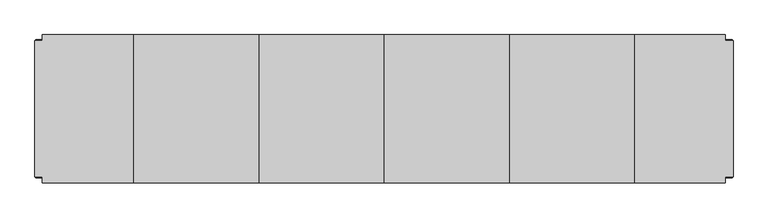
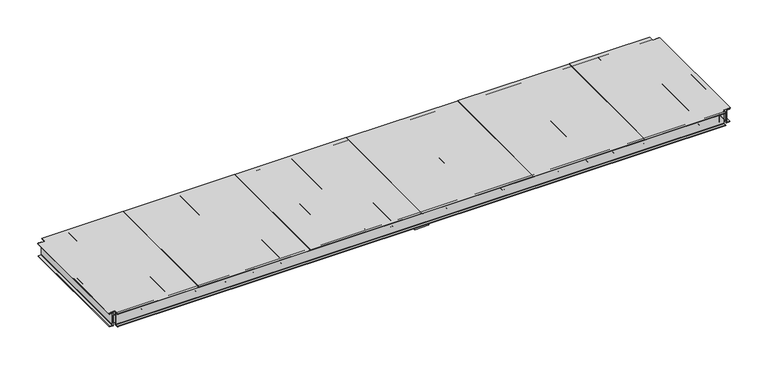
"""IFC4 building model written with IfcOpenShell, lengths in millimetres: beam geometry, Container_Frame1_Revised : Container_Frame1_Revised."""

from ifc_helpers import new_model, si_unit, point, frame, frame_2d, origin, place, context, project, spatial, polyline, circle_curve, trimmed, segment, composite_curve, outline, extrude, source, transform, mapped, element, save


def beam_5c8516a7(model_context):
    return source(origin(), model_context, "Body", "SweptSolid", [
        extrude(outline(composite_curve([segment(polyline([(330.1752743, 1804.4161686), (177.7752743, 1804.4161686), (177.7752743, 1853.1842409), (180.9948089, 1853.1842409)]), True, "CONTINUOUS"), segment(trimmed(circle_curve(frame_2d((180.9948089, 1850.1234802)), 3.0607607), [point((180.9948089, 1853.1842409))], [point((184.0555696, 1850.1234802))], False, "CARTESIAN"), True, "CONTINUOUS"), segment(polyline([(184.0555696, 1850.1234802), (186.983745, 1816.6542822)]), True, "CONTINUOUS"), segment(trimmed(circle_curve(frame_2d((194.4593586, 1816.6542822)), 7.4756136), [point((186.983745, 1816.6542822))], [point((194.4593586, 1809.1786686))], True, "CARTESIAN"), True, "CONTINUOUS"), segment(polyline([(194.4593586, 1809.1786686), (313.3303396, 1809.1786686)]), True, "CONTINUOUS"), segment(trimmed(circle_curve(frame_2d((313.3303396, 1816.7999286)), 7.62126), [point((313.3303396, 1809.1786686))], [point((320.9330346, 1816.2682964))], True, "CARTESIAN"), True, "CONTINUOUS"), segment(polyline([(320.9330346, 1816.2682964), (323.9201245, 1850.4108905)]), True, "CONTINUOUS"), segment(trimmed(circle_curve(frame_2d((326.9411605, 1850.1465841)), 3.0325758), [point((323.9201245, 1850.4108905))], [point((327.0998732, 1853.1750039))], False, "CARTESIAN"), True, "CONTINUOUS"), segment(polyline([(327.0998732, 1853.1750039), (330.1752743, 1853.1750039), (330.1752743, 1804.4161686)]), True, "CONTINUOUS")], self_intersect=False)), frame((0.0, -2776.4304972, 0.0), z_axis=(0.0, 1.0, 0.0), x_axis=(0.0, 0.0, 1.0)), (0.0, 0.0, 1.0), 2696.8000706),
        extrude(outline(composite_curve([segment(polyline([(330.1752743, 6071.6163139), (177.7752743, 6071.6163139), (177.7752743, 6120.3843862), (180.9948089, 6120.3843862)]), True, "CONTINUOUS"), segment(trimmed(circle_curve(frame_2d((180.9948089, 6117.3236256)), 3.0607607), [point((180.9948089, 6120.3843862))], [point((184.0555696, 6117.3236256))], False, "CARTESIAN"), True, "CONTINUOUS"), segment(polyline([(184.0555696, 6117.3236256), (186.983745, 6083.8544276)]), True, "CONTINUOUS"), segment(trimmed(circle_curve(frame_2d((194.4593586, 6083.8544276)), 7.4756136), [point((186.983745, 6083.8544276))], [point((194.4593586, 6076.3788139))], True, "CARTESIAN"), True, "CONTINUOUS"), segment(polyline([(194.4593586, 6076.3788139), (313.3303396, 6076.3788139)]), True, "CONTINUOUS"), segment(trimmed(circle_curve(frame_2d((313.3303396, 6084.000074)), 7.62126), [point((313.3303396, 6076.3788139))], [point((320.9330346, 6083.4684417))], True, "CARTESIAN"), True, "CONTINUOUS"), segment(polyline([(320.9330346, 6083.4684417), (323.9201245, 6117.6110358)]), True, "CONTINUOUS"), segment(trimmed(circle_curve(frame_2d((326.9411605, 6117.3467294)), 3.0325758), [point((323.9201245, 6117.6110358))], [point((327.0998732, 6120.3751492))], False, "CARTESIAN"), True, "CONTINUOUS"), segment(polyline([(327.0998732, 6120.3751492), (330.1752743, 6120.3751492), (330.1752743, 6071.6163139)]), True, "CONTINUOUS")], self_intersect=False)), frame((0.0, -2776.4304972, 0.0), z_axis=(0.0, 1.0, 0.0), x_axis=(0.0, 0.0, 1.0)), (0.0, 0.0, 1.0), 2696.8000706),
        extrude(outline(composite_curve([segment(polyline([(330.1752743, 5462.0163139), (177.7752743, 5462.0163139), (177.7752743, 5510.7843862), (180.9948089, 5510.7843862)]), True, "CONTINUOUS"), segment(trimmed(circle_curve(frame_2d((180.9948089, 5507.7236256)), 3.0607607), [point((180.9948089, 5510.7843862))], [point((184.0555696, 5507.7236256))], False, "CARTESIAN"), True, "CONTINUOUS"), segment(polyline([(184.0555696, 5507.7236256), (186.983745, 5474.2544276)]), True, "CONTINUOUS"), segment(trimmed(circle_curve(frame_2d((194.4593586, 5474.2544276)), 7.4756136), [point((186.983745, 5474.2544276))], [point((194.4593586, 5466.7788139))], True, "CARTESIAN"), True, "CONTINUOUS"), segment(polyline([(194.4593586, 5466.7788139), (313.3303396, 5466.7788139)]), True, "CONTINUOUS"), segment(trimmed(circle_curve(frame_2d((313.3303396, 5474.400074)), 7.62126), [point((313.3303396, 5466.7788139))], [point((320.9330346, 5473.8684417))], True, "CARTESIAN"), True, "CONTINUOUS"), segment(polyline([(320.9330346, 5473.8684417), (323.9201245, 5508.0110358)]), True, "CONTINUOUS"), segment(trimmed(circle_curve(frame_2d((326.9411605, 5507.7467294)), 3.0325758), [point((323.9201245, 5508.0110358))], [point((327.0998732, 5510.7751492))], False, "CARTESIAN"), True, "CONTINUOUS"), segment(polyline([(327.0998732, 5510.7751492), (330.1752743, 5510.7751492), (330.1752743, 5462.0163139)]), True, "CONTINUOUS")], self_intersect=False)), frame((0.0, -2776.4304972, 0.0), z_axis=(0.0, 1.0, 0.0), x_axis=(0.0, 0.0, 1.0)), (0.0, 0.0, 1.0), 2696.8000706),
        extrude(outline(composite_curve([segment(polyline([(330.1752743, 4852.4163139), (177.7752743, 4852.4163139), (177.7752743, 4901.1843862), (180.9948089, 4901.1843862)]), True, "CONTINUOUS"), segment(trimmed(circle_curve(frame_2d((180.9948089, 4898.1236256)), 3.0607607), [point((180.9948089, 4901.1843862))], [point((184.0555696, 4898.1236256))], False, "CARTESIAN"), True, "CONTINUOUS"), segment(polyline([(184.0555696, 4898.1236256), (186.983745, 4864.6544276)]), True, "CONTINUOUS"), segment(trimmed(circle_curve(frame_2d((194.4593586, 4864.6544276)), 7.4756136), [point((186.983745, 4864.6544276))], [point((194.4593586, 4857.1788139))], True, "CARTESIAN"), True, "CONTINUOUS"), segment(polyline([(194.4593586, 4857.1788139), (313.3303396, 4857.1788139)]), True, "CONTINUOUS"), segment(trimmed(circle_curve(frame_2d((313.3303396, 4864.800074)), 7.62126), [point((313.3303396, 4857.1788139))], [point((320.9330346, 4864.2684417))], True, "CARTESIAN"), True, "CONTINUOUS"), segment(polyline([(320.9330346, 4864.2684417), (323.9201245, 4898.4110358)]), True, "CONTINUOUS"), segment(trimmed(circle_curve(frame_2d((326.9411605, 4898.1467294)), 3.0325758), [point((323.9201245, 4898.4110358))], [point((327.0998732, 4901.1751492))], False, "CARTESIAN"), True, "CONTINUOUS"), segment(polyline([(327.0998732, 4901.1751492), (330.1752743, 4901.1751492), (330.1752743, 4852.4163139)]), True, "CONTINUOUS")], self_intersect=False)), frame((0.0, -2776.4304972, 0.0), z_axis=(0.0, 1.0, 0.0), x_axis=(0.0, 0.0, 1.0)), (0.0, 0.0, 1.0), 2696.8000706),
        extrude(outline(composite_curve([segment(polyline([(330.1752743, 4242.8163139), (177.7752743, 4242.8163139), (177.7752743, 4291.5843862), (180.9948089, 4291.5843862)]), True, "CONTINUOUS"), segment(trimmed(circle_curve(frame_2d((180.9948089, 4288.5236256)), 3.0607607), [point((180.9948089, 4291.5843862))], [point((184.0555696, 4288.5236256))], False, "CARTESIAN"), True, "CONTINUOUS"), segment(polyline([(184.0555696, 4288.5236256), (186.983745, 4255.0544276)]), True, "CONTINUOUS"), segment(trimmed(circle_curve(frame_2d((194.4593586, 4255.0544276)), 7.4756136), [point((186.983745, 4255.0544276))], [point((194.4593586, 4247.5788139))], True, "CARTESIAN"), True, "CONTINUOUS"), segment(polyline([(194.4593586, 4247.5788139), (313.3303396, 4247.5788139)]), True, "CONTINUOUS"), segment(trimmed(circle_curve(frame_2d((313.3303396, 4255.200074)), 7.62126), [point((313.3303396, 4247.5788139))], [point((320.9330346, 4254.6684417))], True, "CARTESIAN"), True, "CONTINUOUS"), segment(polyline([(320.9330346, 4254.6684417), (323.9201245, 4288.8110358)]), True, "CONTINUOUS"), segment(trimmed(circle_curve(frame_2d((326.9411605, 4288.5467294)), 3.0325758), [point((323.9201245, 4288.8110358))], [point((327.0998732, 4291.5751492))], False, "CARTESIAN"), True, "CONTINUOUS"), segment(polyline([(327.0998732, 4291.5751492), (330.1752743, 4291.5751492), (330.1752743, 4242.8163139)]), True, "CONTINUOUS")], self_intersect=False)), frame((0.0, -2776.4304972, 0.0), z_axis=(0.0, 1.0, 0.0), x_axis=(0.0, 0.0, 1.0)), (0.0, 0.0, 1.0), 2696.8000706),
        extrude(outline(composite_curve([segment(polyline([(330.1752743, 3633.2163139), (177.7752743, 3633.2163139), (177.7752743, 3681.9843862), (180.9948089, 3681.9843862)]), True, "CONTINUOUS"), segment(trimmed(circle_curve(frame_2d((180.9948089, 3678.9236256)), 3.0607607), [point((180.9948089, 3681.9843862))], [point((184.0555696, 3678.9236256))], False, "CARTESIAN"), True, "CONTINUOUS"), segment(polyline([(184.0555696, 3678.9236256), (186.983745, 3645.4544276)]), True, "CONTINUOUS"), segment(trimmed(circle_curve(frame_2d((194.4593586, 3645.4544276)), 7.4756136), [point((186.983745, 3645.4544276))], [point((194.4593586, 3637.9788139))], True, "CARTESIAN"), True, "CONTINUOUS"), segment(polyline([(194.4593586, 3637.9788139), (313.3303396, 3637.9788139)]), True, "CONTINUOUS"), segment(trimmed(circle_curve(frame_2d((313.3303396, 3645.600074)), 7.62126), [point((313.3303396, 3637.9788139))], [point((320.9330346, 3645.0684417))], True, "CARTESIAN"), True, "CONTINUOUS"), segment(polyline([(320.9330346, 3645.0684417), (323.9201245, 3679.2110358)]), True, "CONTINUOUS"), segment(trimmed(circle_curve(frame_2d((326.9411605, 3678.9467294)), 3.0325758), [point((323.9201245, 3679.2110358))], [point((327.0998732, 3681.9751492))], False, "CARTESIAN"), True, "CONTINUOUS"), segment(polyline([(327.0998732, 3681.9751492), (330.1752743, 3681.9751492), (330.1752743, 3633.2163139)]), True, "CONTINUOUS")], self_intersect=False)), frame((0.0, -2776.4304972, 0.0), z_axis=(0.0, 1.0, 0.0), x_axis=(0.0, 0.0, 1.0)), (0.0, 0.0, 1.0), 2696.8000706),
        extrude(outline(composite_curve([segment(polyline([(330.1752743, 3023.6163139), (177.7752743, 3023.6163139), (177.7752743, 3072.3843862), (180.9948089, 3072.3843862)]), True, "CONTINUOUS"), segment(trimmed(circle_curve(frame_2d((180.9948089, 3069.3236256)), 3.0607607), [point((180.9948089, 3072.3843862))], [point((184.0555696, 3069.3236256))], False, "CARTESIAN"), True, "CONTINUOUS"), segment(polyline([(184.0555696, 3069.3236256), (186.983745, 3035.8544276)]), True, "CONTINUOUS"), segment(trimmed(circle_curve(frame_2d((194.4593586, 3035.8544276)), 7.4756136), [point((186.983745, 3035.8544276))], [point((194.4593586, 3028.3788139))], True, "CARTESIAN"), True, "CONTINUOUS"), segment(polyline([(194.4593586, 3028.3788139), (313.3303396, 3028.3788139)]), True, "CONTINUOUS"), segment(trimmed(circle_curve(frame_2d((313.3303396, 3036.000074)), 7.62126), [point((313.3303396, 3028.3788139))], [point((320.9330346, 3035.4684417))], True, "CARTESIAN"), True, "CONTINUOUS"), segment(polyline([(320.9330346, 3035.4684417), (323.9201245, 3069.6110358)]), True, "CONTINUOUS"), segment(trimmed(circle_curve(frame_2d((326.9411605, 3069.3467294)), 3.0325758), [point((323.9201245, 3069.6110358))], [point((327.0998732, 3072.3751492))], False, "CARTESIAN"), True, "CONTINUOUS"), segment(polyline([(327.0998732, 3072.3751492), (330.1752743, 3072.3751492), (330.1752743, 3023.6163139)]), True, "CONTINUOUS")], self_intersect=False)), frame((0.0, -2776.4304972, 0.0), z_axis=(0.0, 1.0, 0.0), x_axis=(0.0, 0.0, 1.0)), (0.0, 0.0, 1.0), 2696.8000706),
        extrude(outline(composite_curve([segment(polyline([(330.1752743, 1194.8161951), (177.7752743, 1194.8161951), (177.7752743, 1243.5842674), (180.9948089, 1243.5842674)]), True, "CONTINUOUS"), segment(trimmed(circle_curve(frame_2d((180.9948089, 1240.5235068)), 3.0607607), [point((180.9948089, 1243.5842674))], [point((184.0555696, 1240.5235068))], False, "CARTESIAN"), True, "CONTINUOUS"), segment(polyline([(184.0555696, 1240.5235068), (186.983745, 1207.0543088)]), True, "CONTINUOUS"), segment(trimmed(circle_curve(frame_2d((194.4593586, 1207.0543088)), 7.4756136), [point((186.983745, 1207.0543088))], [point((194.4593586, 1199.5786951))], True, "CARTESIAN"), True, "CONTINUOUS"), segment(polyline([(194.4593586, 1199.5786951), (313.3303396, 1199.5786951)]), True, "CONTINUOUS"), segment(trimmed(circle_curve(frame_2d((313.3303396, 1207.1999552)), 7.62126), [point((313.3303396, 1199.5786951))], [point((320.9330346, 1206.6683229))], True, "CARTESIAN"), True, "CONTINUOUS"), segment(polyline([(320.9330346, 1206.6683229), (323.9201245, 1240.810917)]), True, "CONTINUOUS"), segment(trimmed(circle_curve(frame_2d((326.9411605, 1240.5466106)), 3.0325758), [point((323.9201245, 1240.810917))], [point((327.0998732, 1243.5750304))], False, "CARTESIAN"), True, "CONTINUOUS"), segment(polyline([(327.0998732, 1243.5750304), (330.1752743, 1243.5750304), (330.1752743, 1194.8161951)]), True, "CONTINUOUS")], self_intersect=False)), frame((0.0, -2776.4304972, 0.0), z_axis=(0.0, 1.0, 0.0), x_axis=(0.0, 0.0, 1.0)), (0.0, 0.0, 1.0), 2696.8000706),
        extrude(outline(composite_curve([segment(polyline([(330.1752743, 585.2161951), (177.7752743, 585.2161951), (177.7752743, 633.9842674), (180.9948089, 633.9842674)]), True, "CONTINUOUS"), segment(trimmed(circle_curve(frame_2d((180.9948089, 630.9235068)), 3.0607607), [point((180.9948089, 633.9842674))], [point((184.0555696, 630.9235068))], False, "CARTESIAN"), True, "CONTINUOUS"), segment(polyline([(184.0555696, 630.9235068), (186.983745, 597.4543088)]), True, "CONTINUOUS"), segment(trimmed(circle_curve(frame_2d((194.4593586, 597.4543088)), 7.4756136), [point((186.983745, 597.4543088))], [point((194.4593586, 589.9786951))], True, "CARTESIAN"), True, "CONTINUOUS"), segment(polyline([(194.4593586, 589.9786951), (313.3303396, 589.9786951)]), True, "CONTINUOUS"), segment(trimmed(circle_curve(frame_2d((313.3303396, 597.5999552)), 7.62126), [point((313.3303396, 589.9786951))], [point((320.9330346, 597.0683229))], True, "CARTESIAN"), True, "CONTINUOUS"), segment(polyline([(320.9330346, 597.0683229), (323.9201245, 631.210917)]), True, "CONTINUOUS"), segment(trimmed(circle_curve(frame_2d((326.9411605, 630.9466106)), 3.0325758), [point((323.9201245, 631.210917))], [point((327.0998732, 633.9750304))], False, "CARTESIAN"), True, "CONTINUOUS"), segment(polyline([(327.0998732, 633.9750304), (330.1752743, 633.9750304), (330.1752743, 585.2161951)]), True, "CONTINUOUS")], self_intersect=False)), frame((0.0, -2776.4304972, 0.0), z_axis=(0.0, 1.0, 0.0), x_axis=(0.0, 0.0, 1.0)), (0.0, 0.0, 1.0), 2696.8000706),
        extrude(outline(composite_curve([segment(polyline([(330.1752743, -24.3838049), (177.7752743, -24.3838049), (177.7752743, 24.3842674), (180.9948089, 24.3842674)]), True, "CONTINUOUS"), segment(trimmed(circle_curve(frame_2d((180.9948089, 21.3235068)), 3.0607607), [point((180.9948089, 24.3842674))], [point((184.0555696, 21.3235068))], False, "CARTESIAN"), True, "CONTINUOUS"), segment(polyline([(184.0555696, 21.3235068), (186.983745, -12.1456912)]), True, "CONTINUOUS"), segment(trimmed(circle_curve(frame_2d((194.4593586, -12.1456912)), 7.4756136), [point((186.983745, -12.1456912))], [point((194.4593586, -19.6213049))], True, "CARTESIAN"), True, "CONTINUOUS"), segment(polyline([(194.4593586, -19.6213049), (313.3303396, -19.6213049)]), True, "CONTINUOUS"), segment(trimmed(circle_curve(frame_2d((313.3303396, -12.0000448)), 7.62126), [point((313.3303396, -19.6213049))], [point((320.9330346, -12.5316771))], True, "CARTESIAN"), True, "CONTINUOUS"), segment(polyline([(320.9330346, -12.5316771), (323.9201245, 21.610917)]), True, "CONTINUOUS"), segment(trimmed(circle_curve(frame_2d((326.9411605, 21.3466106)), 3.0325758), [point((323.9201245, 21.610917))], [point((327.0998732, 24.3750304))], False, "CARTESIAN"), True, "CONTINUOUS"), segment(polyline([(327.0998732, 24.3750304), (330.1752743, 24.3750304), (330.1752743, -24.3838049)]), True, "CONTINUOUS")], self_intersect=False)), frame((0.0, -2776.4304972, 0.0), z_axis=(0.0, 1.0, 0.0), x_axis=(0.0, 0.0, 1.0)), (0.0, 0.0, 1.0), 2696.8000706),
        extrude(outline(composite_curve([segment(polyline([(330.1752743, -633.9838049), (177.7752743, -633.9838049), (177.7752743, -585.2157326), (180.9948089, -585.2157326)]), True, "CONTINUOUS"), segment(trimmed(circle_curve(frame_2d((180.9948089, -588.2764932)), 3.0607607), [point((180.9948089, -585.2157326))], [point((184.0555696, -588.2764932))], False, "CARTESIAN"), True, "CONTINUOUS"), segment(polyline([(184.0555696, -588.2764932), (186.983745, -621.7456912)]), True, "CONTINUOUS"), segment(trimmed(circle_curve(frame_2d((194.4593586, -621.7456912)), 7.4756136), [point((186.983745, -621.7456912))], [point((194.4593586, -629.2213049))], True, "CARTESIAN"), True, "CONTINUOUS"), segment(polyline([(194.4593586, -629.2213049), (313.3303396, -629.2213049)]), True, "CONTINUOUS"), segment(trimmed(circle_curve(frame_2d((313.3303396, -621.6000448)), 7.62126), [point((313.3303396, -629.2213049))], [point((320.9330346, -622.1316771))], True, "CARTESIAN"), True, "CONTINUOUS"), segment(polyline([(320.9330346, -622.1316771), (323.9201245, -587.989083)]), True, "CONTINUOUS"), segment(trimmed(circle_curve(frame_2d((326.9411605, -588.2533894)), 3.0325758), [point((323.9201245, -587.989083))], [point((327.0998732, -585.2249696))], False, "CARTESIAN"), True, "CONTINUOUS"), segment(polyline([(327.0998732, -585.2249696), (330.1752743, -585.2249696), (330.1752743, -633.9838049)]), True, "CONTINUOUS")], self_intersect=False)), frame((0.0, -2776.4304972, 0.0), z_axis=(0.0, 1.0, 0.0), x_axis=(0.0, 0.0, 1.0)), (0.0, 0.0, 1.0), 2696.8000706),
        extrude(outline(composite_curve([segment(polyline([(330.1752743, -1243.5838049), (177.7752743, -1243.5838049), (177.7752743, -1194.8157326), (180.9948089, -1194.8157326)]), True, "CONTINUOUS"), segment(trimmed(circle_curve(frame_2d((180.9948089, -1197.8764932)), 3.0607607), [point((180.9948089, -1194.8157326))], [point((184.0555696, -1197.8764932))], False, "CARTESIAN"), True, "CONTINUOUS"), segment(polyline([(184.0555696, -1197.8764932), (186.983745, -1231.3456912)]), True, "CONTINUOUS"), segment(trimmed(circle_curve(frame_2d((194.4593586, -1231.3456912)), 7.4756136), [point((186.983745, -1231.3456912))], [point((194.4593586, -1238.8213049))], True, "CARTESIAN"), True, "CONTINUOUS"), segment(polyline([(194.4593586, -1238.8213049), (313.3303396, -1238.8213049)]), True, "CONTINUOUS"), segment(trimmed(circle_curve(frame_2d((313.3303396, -1231.2000448)), 7.62126), [point((313.3303396, -1238.8213049))], [point((320.9330346, -1231.7316771))], True, "CARTESIAN"), True, "CONTINUOUS"), segment(polyline([(320.9330346, -1231.7316771), (323.9201245, -1197.589083)]), True, "CONTINUOUS"), segment(trimmed(circle_curve(frame_2d((326.9411605, -1197.8533894)), 3.0325758), [point((323.9201245, -1197.589083))], [point((327.0998732, -1194.8249696))], False, "CARTESIAN"), True, "CONTINUOUS"), segment(polyline([(327.0998732, -1194.8249696), (330.1752743, -1194.8249696), (330.1752743, -1243.5838049)]), True, "CONTINUOUS")], self_intersect=False)), frame((0.0, -2776.4304972, 0.0), z_axis=(0.0, 1.0, 0.0), x_axis=(0.0, 0.0, 1.0)), (0.0, 0.0, 1.0), 2696.8000706),
        extrude(outline(composite_curve([segment(polyline([(330.1752743, -1853.1838049), (177.7752743, -1853.1838049), (177.7752743, -1804.4157326), (180.9948089, -1804.4157326)]), True, "CONTINUOUS"), segment(trimmed(circle_curve(frame_2d((180.9948089, -1807.4764932)), 3.0607607), [point((180.9948089, -1804.4157326))], [point((184.0555696, -1807.4764932))], False, "CARTESIAN"), True, "CONTINUOUS"), segment(polyline([(184.0555696, -1807.4764932), (186.983745, -1840.9456912)]), True, "CONTINUOUS"), segment(trimmed(circle_curve(frame_2d((194.4593586, -1840.9456912)), 7.4756136), [point((186.983745, -1840.9456912))], [point((194.4593586, -1848.4213049))], True, "CARTESIAN"), True, "CONTINUOUS"), segment(polyline([(194.4593586, -1848.4213049), (313.3303396, -1848.4213049)]), True, "CONTINUOUS"), segment(trimmed(circle_curve(frame_2d((313.3303396, -1840.8000448)), 7.62126), [point((313.3303396, -1848.4213049))], [point((320.9330346, -1841.3316771))], True, "CARTESIAN"), True, "CONTINUOUS"), segment(polyline([(320.9330346, -1841.3316771), (323.9201245, -1807.189083)]), True, "CONTINUOUS"), segment(trimmed(circle_curve(frame_2d((326.9411605, -1807.4533894)), 3.0325758), [point((323.9201245, -1807.189083))], [point((327.0998732, -1804.4249696))], False, "CARTESIAN"), True, "CONTINUOUS"), segment(polyline([(327.0998732, -1804.4249696), (330.1752743, -1804.4249696), (330.1752743, -1853.1838049)]), True, "CONTINUOUS")], self_intersect=False)), frame((0.0, -2776.4304972, 0.0), z_axis=(0.0, 1.0, 0.0), x_axis=(0.0, 0.0, 1.0)), (0.0, 0.0, 1.0), 2696.8000706),
        extrude(outline(composite_curve([segment(polyline([(330.1752743, -3072.3838049), (177.7752743, -3072.3838049), (177.7752743, -3023.6157326), (180.9948089, -3023.6157326)]), True, "CONTINUOUS"), segment(trimmed(circle_curve(frame_2d((180.9948089, -3026.6764932)), 3.0607607), [point((180.9948089, -3023.6157326))], [point((184.0555696, -3026.6764932))], False, "CARTESIAN"), True, "CONTINUOUS"), segment(polyline([(184.0555696, -3026.6764932), (186.983745, -3060.1456912)]), True, "CONTINUOUS"), segment(trimmed(circle_curve(frame_2d((194.4593586, -3060.1456912)), 7.4756136), [point((186.983745, -3060.1456912))], [point((194.4593586, -3067.6213049))], True, "CARTESIAN"), True, "CONTINUOUS"), segment(polyline([(194.4593586, -3067.6213049), (313.3303396, -3067.6213049)]), True, "CONTINUOUS"), segment(trimmed(circle_curve(frame_2d((313.3303396, -3060.0000448)), 7.62126), [point((313.3303396, -3067.6213049))], [point((320.9330346, -3060.5316771))], True, "CARTESIAN"), True, "CONTINUOUS"), segment(polyline([(320.9330346, -3060.5316771), (323.9201245, -3026.389083)]), True, "CONTINUOUS"), segment(trimmed(circle_curve(frame_2d((326.9411605, -3026.6533894)), 3.0325758), [point((323.9201245, -3026.389083))], [point((327.0998732, -3023.6249696))], False, "CARTESIAN"), True, "CONTINUOUS"), segment(polyline([(327.0998732, -3023.6249696), (330.1752743, -3023.6249696), (330.1752743, -3072.3838049)]), True, "CONTINUOUS")], self_intersect=False)), frame((0.0, -2776.4304972, 0.0), z_axis=(0.0, 1.0, 0.0), x_axis=(0.0, 0.0, 1.0)), (0.0, 0.0, 1.0), 2696.8000706),
        extrude(outline(composite_curve([segment(polyline([(330.1752743, -3681.9838049), (177.7752743, -3681.9838049), (177.7752743, -3633.2157326), (180.9948089, -3633.2157326)]), True, "CONTINUOUS"), segment(trimmed(circle_curve(frame_2d((180.9948089, -3636.2764932)), 3.0607607), [point((180.9948089, -3633.2157326))], [point((184.0555696, -3636.2764932))], False, "CARTESIAN"), True, "CONTINUOUS"), segment(polyline([(184.0555696, -3636.2764932), (186.983745, -3669.7456912)]), True, "CONTINUOUS"), segment(trimmed(circle_curve(frame_2d((194.4593586, -3669.7456912)), 7.4756136), [point((186.983745, -3669.7456912))], [point((194.4593586, -3677.2213049))], True, "CARTESIAN"), True, "CONTINUOUS"), segment(polyline([(194.4593586, -3677.2213049), (313.3303396, -3677.2213049)]), True, "CONTINUOUS"), segment(trimmed(circle_curve(frame_2d((313.3303396, -3669.6000448)), 7.62126), [point((313.3303396, -3677.2213049))], [point((320.9330346, -3670.1316771))], True, "CARTESIAN"), True, "CONTINUOUS"), segment(polyline([(320.9330346, -3670.1316771), (323.9201245, -3635.989083)]), True, "CONTINUOUS"), segment(trimmed(circle_curve(frame_2d((326.9411605, -3636.2533894)), 3.0325758), [point((323.9201245, -3635.989083))], [point((327.0998732, -3633.2249696))], False, "CARTESIAN"), True, "CONTINUOUS"), segment(polyline([(327.0998732, -3633.2249696), (330.1752743, -3633.2249696), (330.1752743, -3681.9838049)]), True, "CONTINUOUS")], self_intersect=False)), frame((0.0, -2776.4304972, 0.0), z_axis=(0.0, 1.0, 0.0), x_axis=(0.0, 0.0, 1.0)), (0.0, 0.0, 1.0), 2696.8000706),
        extrude(outline(composite_curve([segment(polyline([(330.1752743, -4291.5838049), (177.7752743, -4291.5838049), (177.7752743, -4242.8157326), (180.9948089, -4242.8157326)]), True, "CONTINUOUS"), segment(trimmed(circle_curve(frame_2d((180.9948089, -4245.8764932)), 3.0607607), [point((180.9948089, -4242.8157326))], [point((184.0555696, -4245.8764932))], False, "CARTESIAN"), True, "CONTINUOUS"), segment(polyline([(184.0555696, -4245.8764932), (186.983745, -4279.3456912)]), True, "CONTINUOUS"), segment(trimmed(circle_curve(frame_2d((194.4593586, -4279.3456912)), 7.4756136), [point((186.983745, -4279.3456912))], [point((194.4593586, -4286.8213049))], True, "CARTESIAN"), True, "CONTINUOUS"), segment(polyline([(194.4593586, -4286.8213049), (313.3303396, -4286.8213049)]), True, "CONTINUOUS"), segment(trimmed(circle_curve(frame_2d((313.3303396, -4279.2000448)), 7.62126), [point((313.3303396, -4286.8213049))], [point((320.9330346, -4279.7316771))], True, "CARTESIAN"), True, "CONTINUOUS"), segment(polyline([(320.9330346, -4279.7316771), (323.9201245, -4245.589083)]), True, "CONTINUOUS"), segment(trimmed(circle_curve(frame_2d((326.9411605, -4245.8533894)), 3.0325758), [point((323.9201245, -4245.589083))], [point((327.0998732, -4242.8249696))], False, "CARTESIAN"), True, "CONTINUOUS"), segment(polyline([(327.0998732, -4242.8249696), (330.1752743, -4242.8249696), (330.1752743, -4291.5838049)]), True, "CONTINUOUS")], self_intersect=False)), frame((0.0, -2776.4304972, 0.0), z_axis=(0.0, 1.0, 0.0), x_axis=(0.0, 0.0, 1.0)), (0.0, 0.0, 1.0), 2696.8000706),
        extrude(outline(composite_curve([segment(polyline([(330.1752743, -4901.1838049), (177.7752743, -4901.1838049), (177.7752743, -4852.4157326), (180.9948089, -4852.4157326)]), True, "CONTINUOUS"), segment(trimmed(circle_curve(frame_2d((180.9948089, -4855.4764932)), 3.0607607), [point((180.9948089, -4852.4157326))], [point((184.0555696, -4855.4764932))], False, "CARTESIAN"), True, "CONTINUOUS"), segment(polyline([(184.0555696, -4855.4764932), (186.983745, -4888.9456912)]), True, "CONTINUOUS"), segment(trimmed(circle_curve(frame_2d((194.4593586, -4888.9456912)), 7.4756136), [point((186.983745, -4888.9456912))], [point((194.4593586, -4896.4213049))], True, "CARTESIAN"), True, "CONTINUOUS"), segment(polyline([(194.4593586, -4896.4213049), (313.3303396, -4896.4213049)]), True, "CONTINUOUS"), segment(trimmed(circle_curve(frame_2d((313.3303396, -4888.8000448)), 7.62126), [point((313.3303396, -4896.4213049))], [point((320.9330346, -4889.3316771))], True, "CARTESIAN"), True, "CONTINUOUS"), segment(polyline([(320.9330346, -4889.3316771), (323.9201245, -4855.189083)]), True, "CONTINUOUS"), segment(trimmed(circle_curve(frame_2d((326.9411605, -4855.4533894)), 3.0325758), [point((323.9201245, -4855.189083))], [point((327.0998732, -4852.4249696))], False, "CARTESIAN"), True, "CONTINUOUS"), segment(polyline([(327.0998732, -4852.4249696), (330.1752743, -4852.4249696), (330.1752743, -4901.1838049)]), True, "CONTINUOUS")], self_intersect=False)), frame((0.0, -2776.4304972, 0.0), z_axis=(0.0, 1.0, 0.0), x_axis=(0.0, 0.0, 1.0)), (0.0, 0.0, 1.0), 2696.8000706),
        extrude(outline(composite_curve([segment(polyline([(330.1752743, -5510.7838049), (177.7752743, -5510.7838049), (177.7752743, -5462.0157326), (180.9948089, -5462.0157326)]), True, "CONTINUOUS"), segment(trimmed(circle_curve(frame_2d((180.9948089, -5465.0764932)), 3.0607607), [point((180.9948089, -5462.0157326))], [point((184.0555696, -5465.0764932))], False, "CARTESIAN"), True, "CONTINUOUS"), segment(polyline([(184.0555696, -5465.0764932), (186.983745, -5498.5456912)]), True, "CONTINUOUS"), segment(trimmed(circle_curve(frame_2d((194.4593586, -5498.5456912)), 7.4756136), [point((186.983745, -5498.5456912))], [point((194.4593586, -5506.0213049))], True, "CARTESIAN"), True, "CONTINUOUS"), segment(polyline([(194.4593586, -5506.0213049), (313.3303396, -5506.0213049)]), True, "CONTINUOUS"), segment(trimmed(circle_curve(frame_2d((313.3303396, -5498.4000448)), 7.62126), [point((313.3303396, -5506.0213049))], [point((320.9330346, -5498.9316771))], True, "CARTESIAN"), True, "CONTINUOUS"), segment(polyline([(320.9330346, -5498.9316771), (323.9201245, -5464.789083)]), True, "CONTINUOUS"), segment(trimmed(circle_curve(frame_2d((326.9411605, -5465.0533894)), 3.0325758), [point((323.9201245, -5464.789083))], [point((327.0998732, -5462.0249696))], False, "CARTESIAN"), True, "CONTINUOUS"), segment(polyline([(327.0998732, -5462.0249696), (330.1752743, -5462.0249696), (330.1752743, -5510.7838049)]), True, "CONTINUOUS")], self_intersect=False)), frame((0.0, -2776.4304972, 0.0), z_axis=(0.0, 1.0, 0.0), x_axis=(0.0, 0.0, 1.0)), (0.0, 0.0, 1.0), 2696.8000706),
        extrude(outline(composite_curve([segment(polyline([(330.1752743, -6120.3838049), (177.7752743, -6120.3838049), (177.7752743, -6071.6157326), (180.9948089, -6071.6157326)]), True, "CONTINUOUS"), segment(trimmed(circle_curve(frame_2d((180.9948089, -6074.6764932)), 3.0607607), [point((180.9948089, -6071.6157326))], [point((184.0555696, -6074.6764932))], False, "CARTESIAN"), True, "CONTINUOUS"), segment(polyline([(184.0555696, -6074.6764932), (186.983745, -6108.1456912)]), True, "CONTINUOUS"), segment(trimmed(circle_curve(frame_2d((194.4593586, -6108.1456912)), 7.4756136), [point((186.983745, -6108.1456912))], [point((194.4593586, -6115.6213049))], True, "CARTESIAN"), True, "CONTINUOUS"), segment(polyline([(194.4593586, -6115.6213049), (313.3303396, -6115.6213049)]), True, "CONTINUOUS"), segment(trimmed(circle_curve(frame_2d((313.3303396, -6108.0000448)), 7.62126), [point((313.3303396, -6115.6213049))], [point((320.9330346, -6108.5316771))], True, "CARTESIAN"), True, "CONTINUOUS"), segment(polyline([(320.9330346, -6108.5316771), (323.9201245, -6074.389083)]), True, "CONTINUOUS"), segment(trimmed(circle_curve(frame_2d((326.9411605, -6074.6533894)), 3.0325758), [point((323.9201245, -6074.389083))], [point((327.0998732, -6071.6249696))], False, "CARTESIAN"), True, "CONTINUOUS"), segment(polyline([(327.0998732, -6071.6249696), (330.1752743, -6071.6249696), (330.1752743, -6120.3838049)]), True, "CONTINUOUS")], self_intersect=False)), frame((0.0, -2776.4304972, 0.0), z_axis=(0.0, 1.0, 0.0), x_axis=(0.0, 0.0, 1.0)), (0.0, 0.0, 1.0), 2696.8000706),
        extrude(outline(polyline([(150.0001951, -150.2554095), (-149.9998049, -150.2554095), (-149.9998049, -0.2554095), (150.0001951, -0.2554095), (150.0001951, -150.2554095)])), frame((0.0, 0.0, 0.3752741), z_axis=(0.0, 0.0, 1.0), x_axis=(1.0, 0.0, 0.0)), (0.0, 0.0, 1.0), 25.0),
        extrude(outline(polyline([(150.0001951, -2705.8054488), (150.0001951, -2855.8054488), (-149.9998049, -2855.8054488), (-149.9998049, -2705.8054488), (150.0001951, -2705.8054488)])), frame((0.0, 0.0, 0.3752741), z_axis=(0.0, 0.0, 1.0), x_axis=(1.0, 0.0, 0.0)), (0.0, 0.0, 1.0), 25.0),
        extrude(outline(composite_curve([segment(polyline([(-82.6784308, 101.5752743), (-79.6323299, 101.5752743), (-79.6323299, 25.3752741), (-155.8304291, 25.3752741), (-155.8304291, 28.4232743)]), True, "CONTINUOUS"), segment(trimmed(circle_curve(frame_2d((-152.5284291, 28.4232743)), 3.302), [point((-155.8304291, 28.4232743))], [point((-152.5284291, 31.7252743))], False, "CARTESIAN"), True, "CONTINUOUS"), segment(polyline([(-152.5284291, 31.7252743), (-91.0604291, 31.7252743)]), True, "CONTINUOUS"), segment(trimmed(circle_curve(frame_2d((-91.0604291, 36.8052743)), 5.08), [point((-91.0604291, 31.7252743))], [point((-85.9804291, 36.8052743))], True, "CARTESIAN"), True, "CONTINUOUS"), segment(polyline([(-85.9804291, 36.8052743), (-85.9804291, 98.273276)]), True, "CONTINUOUS"), segment(trimmed(circle_curve(frame_2d((-82.6784308, 98.273276)), 3.3019983), [point((-85.9804291, 98.273276))], [point((-82.6784308, 101.5752743))], False, "CARTESIAN"), True, "CONTINUOUS")], self_intersect=False)), frame((-149.9998058, 0.0, 0.0), z_axis=(1.0, 0.0, 0.0), x_axis=(0.0, 1.0, 0.0)), (0.0, 0.0, 1.0), 300.0000068),
        extrude(outline(composite_curve([segment(trimmed(circle_curve(frame_2d((-2773.3824275, 98.273276)), 3.3019983), [point((-2773.3824275, 101.5752743))], [point((-2770.0804291, 98.273276))], False, "CARTESIAN"), True, "CONTINUOUS"), segment(polyline([(-2770.0804291, 98.273276), (-2770.0804291, 36.8052743)]), True, "CONTINUOUS"), segment(trimmed(circle_curve(frame_2d((-2765.0004291, 36.8052743)), 5.08), [point((-2770.0804291, 36.8052743))], [point((-2765.0004291, 31.7252743))], True, "CARTESIAN"), True, "CONTINUOUS"), segment(polyline([(-2765.0004291, 31.7252743), (-2703.5324291, 31.7252743)]), True, "CONTINUOUS"), segment(trimmed(circle_curve(frame_2d((-2703.5324291, 28.4232743)), 3.302), [point((-2703.5324291, 31.7252743))], [point((-2700.2304291, 28.4232743))], False, "CARTESIAN"), True, "CONTINUOUS"), segment(polyline([(-2700.2304291, 28.4232743), (-2700.2304291, 25.3752741), (-2776.4285283, 25.3752741), (-2776.4285283, 101.5752743), (-2773.3824275, 101.5752743)]), True, "CONTINUOUS")], self_intersect=False)), frame((-149.9998058, 0.0, 0.0), z_axis=(1.0, 0.0, 0.0), x_axis=(0.0, 1.0, 0.0)), (0.0, 0.0, 1.0), 300.0000068),
        extrude(outline(composite_curve([segment(polyline([(6705.4001951, -79.630361), (6705.4001951, -181.2304291), (6701.5263049, -181.2304291)]), True, "CONTINUOUS"), segment(trimmed(circle_curve(frame_2d((6701.5263049, -177.1665305)), 4.0638987), [point((6701.5263049, -181.2304291))], [point((6697.4624062, -177.1665305))], False, "CARTESIAN"), True, "CONTINUOUS"), segment(polyline([(6697.4624062, -177.1665305), (6697.4624062, -93.5523757)]), True, "CONTINUOUS"), segment(trimmed(circle_curve(frame_2d((6691.4279915, -93.5523757)), 6.0344147), [point((6697.4624062, -93.5523757))], [point((6691.4279915, -87.517961))], True, "CARTESIAN"), True, "CONTINUOUS"), segment(polyline([(6691.4279915, -87.517961), (6556.4279915, -87.517961)]), True, "CONTINUOUS"), segment(trimmed(circle_curve(frame_2d((6557.056571, -83.510095)), 4.0568586), [point((6556.4279915, -87.517961))], [point((6552.9997124, -83.510095))], False, "CARTESIAN"), True, "CONTINUOUS"), segment(polyline([(6552.9997124, -83.510095), (6552.9997124, -79.630361), (6705.4001951, -79.630361)]), True, "CONTINUOUS")], self_intersect=False)), frame((0.0, 0.0, 88.8752728), z_axis=(0.0, 0.0, 1.0), x_axis=(1.0, 0.0, 0.0)), (0.0, 0.0, 1.0), 177.8000076),
        extrude(outline(composite_curve([segment(polyline([(-6704.4001951, -79.630361), (-6551.9997124, -79.630361), (-6551.9997124, -83.510095)]), True, "CONTINUOUS"), segment(trimmed(circle_curve(frame_2d((-6556.056571, -83.510095)), 4.0568586), [point((-6551.9997124, -83.510095))], [point((-6555.4279915, -87.517961))], False, "CARTESIAN"), True, "CONTINUOUS"), segment(polyline([(-6555.4279915, -87.517961), (-6690.4279915, -87.517961)]), True, "CONTINUOUS"), segment(trimmed(circle_curve(frame_2d((-6690.4279915, -93.5523757)), 6.0344147), [point((-6690.4279915, -87.517961))], [point((-6696.4624062, -93.5523757))], True, "CARTESIAN"), True, "CONTINUOUS"), segment(polyline([(-6696.4624062, -93.5523757), (-6696.4624062, -177.1665305)]), True, "CONTINUOUS"), segment(trimmed(circle_curve(frame_2d((-6700.5263049, -177.1665305)), 4.0638987), [point((-6696.4624062, -177.1665305))], [point((-6700.5263049, -181.2304291))], False, "CARTESIAN"), True, "CONTINUOUS"), segment(polyline([(-6700.5263049, -181.2304291), (-6704.4001951, -181.2304291), (-6704.4001951, -79.630361)]), True, "CONTINUOUS")], self_intersect=False)), frame((0.0, 0.0, 88.8752728), z_axis=(0.0, 0.0, 1.0), x_axis=(1.0, 0.0, 0.0)), (0.0, 0.0, 1.0), 177.8000076),
        extrude(outline(composite_curve([segment(polyline([(6705.4001951, -2776.4304972), (6552.9997124, -2776.4304972), (6552.9997124, -2772.5507633)]), True, "CONTINUOUS"), segment(trimmed(circle_curve(frame_2d((6557.056571, -2772.5507633)), 4.0568586), [point((6552.9997124, -2772.5507633))], [point((6556.4279915, -2768.5428973))], False, "CARTESIAN"), True, "CONTINUOUS"), segment(polyline([(6556.4279915, -2768.5428973), (6691.4279915, -2768.5428973)]), True, "CONTINUOUS"), segment(trimmed(circle_curve(frame_2d((6691.4279915, -2762.5084826)), 6.0344147), [point((6691.4279915, -2768.5428973))], [point((6697.4624062, -2762.5084826))], True, "CARTESIAN"), True, "CONTINUOUS"), segment(polyline([(6697.4624062, -2762.5084826), (6697.4624062, -2678.8943278)]), True, "CONTINUOUS"), segment(trimmed(circle_curve(frame_2d((6701.5263049, -2678.8943278)), 4.0638987), [point((6697.4624062, -2678.8943278))], [point((6701.5263049, -2674.8304291))], False, "CARTESIAN"), True, "CONTINUOUS"), segment(polyline([(6701.5263049, -2674.8304291), (6705.4001951, -2674.8304291), (6705.4001951, -2776.4304972)]), True, "CONTINUOUS")], self_intersect=False)), frame((0.0, 0.0, 88.8752728), z_axis=(0.0, 0.0, 1.0), x_axis=(1.0, 0.0, 0.0)), (0.0, 0.0, 1.0), 177.8000076),
        extrude(outline(composite_curve([segment(polyline([(-6704.4001951, -2776.4304972), (-6704.4001951, -2674.8304291), (-6700.5263049, -2674.8304291)]), True, "CONTINUOUS"), segment(trimmed(circle_curve(frame_2d((-6700.5263049, -2678.8943278)), 4.0638987), [point((-6700.5263049, -2674.8304291))], [point((-6696.4624062, -2678.8943278))], False, "CARTESIAN"), True, "CONTINUOUS"), segment(polyline([(-6696.4624062, -2678.8943278), (-6696.4624062, -2762.5084826)]), True, "CONTINUOUS"), segment(trimmed(circle_curve(frame_2d((-6690.4279915, -2762.5084826)), 6.0344147), [point((-6696.4624062, -2762.5084826))], [point((-6690.4279915, -2768.5428973))], True, "CARTESIAN"), True, "CONTINUOUS"), segment(polyline([(-6690.4279915, -2768.5428973), (-6555.4279915, -2768.5428973)]), True, "CONTINUOUS"), segment(trimmed(circle_curve(frame_2d((-6556.056571, -2772.5507633)), 4.0568586), [point((-6555.4279915, -2768.5428973))], [point((-6551.9997124, -2772.5507633))], False, "CARTESIAN"), True, "CONTINUOUS"), segment(polyline([(-6551.9997124, -2772.5507633), (-6551.9997124, -2776.4304972), (-6704.4001951, -2776.4304972)]), True, "CONTINUOUS")], self_intersect=False)), frame((0.0, 0.0, 88.8752728), z_axis=(0.0, 0.0, 1.0), x_axis=(1.0, 0.0, 0.0)), (0.0, 0.0, 1.0), 177.8000076),
        extrude(outline(composite_curve([segment(trimmed(circle_curve(frame_2d((-4.3595802, 324.3486457)), 4.1041511), [point((-0.2554291, 324.3486457))], [point((-2.9558779, 320.4920052))], False, "CARTESIAN"), True, "CONTINUOUS"), segment(polyline([(-2.9558779, 320.4920052), (-57.5838822, 315.3390437)]), True, "CONTINUOUS"), segment(trimmed(circle_curve(frame_2d((-57.5838822, 306.0570807)), 9.281963), [point((-57.5838822, 315.3390437))], [point((-66.8658452, 306.0570807))], True, "CARTESIAN"), True, "CONTINUOUS"), segment(polyline([(-66.8658452, 306.0570807), (-66.8658452, 48.9672737)]), True, "CONTINUOUS"), segment(trimmed(circle_curve(frame_2d((-58.1196564, 48.9672737)), 8.7461888), [point((-66.8658452, 48.9672737))], [point((-58.1196564, 40.2210849))], True, "CARTESIAN"), True, "CONTINUOUS"), segment(polyline([(-58.1196564, 40.2210849), (-4.5914815, 35.5379764)]), True, "CONTINUOUS"), segment(trimmed(circle_curve(frame_2d((-4.5914815, 31.2019045)), 4.336072), [point((-4.5914815, 35.5379764))], [point((-0.2554095, 31.2019045))], False, "CARTESIAN"), True, "CONTINUOUS"), segment(polyline([(-0.2554095, 31.2019045), (-0.2554095, 25.3752743), (-79.6304291, 25.3752743), (-79.6304291, 330.1752743), (-0.2554291, 330.1752743), (-0.2554291, 324.3486457)]), True, "CONTINUOUS")], self_intersect=False)), frame((-6653.5999062, 0.0, 0.0), z_axis=(1.0, 0.0, 0.0), x_axis=(0.0, 1.0, 0.0)), (0.0, 0.0, 1.0), 13302.0001013),
        extrude(outline(composite_curve([segment(polyline([(-2855.8054291, 324.3486457), (-2855.8054291, 330.1752743), (-2776.4304291, 330.1752743), (-2776.4304291, 25.3752743), (-2855.8054488, 25.3752743), (-2855.8054488, 31.2019045)]), True, "CONTINUOUS"), segment(trimmed(circle_curve(frame_2d((-2851.4693768, 31.2019045)), 4.336072), [point((-2855.8054488, 31.2019045))], [point((-2851.4693768, 35.5379764))], False, "CARTESIAN"), True, "CONTINUOUS"), segment(polyline([(-2851.4693768, 35.5379764), (-2797.9412019, 40.2210849)]), True, "CONTINUOUS"), segment(trimmed(circle_curve(frame_2d((-2797.9412019, 48.9672737)), 8.7461888), [point((-2797.9412019, 40.2210849))], [point((-2789.1950131, 48.9672737))], True, "CARTESIAN"), True, "CONTINUOUS"), segment(polyline([(-2789.1950131, 48.9672737), (-2789.1950131, 306.0570807)]), True, "CONTINUOUS"), segment(trimmed(circle_curve(frame_2d((-2798.4769761, 306.0570807)), 9.281963), [point((-2789.1950131, 306.0570807))], [point((-2798.4769761, 315.3390437))], True, "CARTESIAN"), True, "CONTINUOUS"), segment(polyline([(-2798.4769761, 315.3390437), (-2853.1049804, 320.4920052)]), True, "CONTINUOUS"), segment(trimmed(circle_curve(frame_2d((-2851.7012781, 324.3486457)), 4.1041511), [point((-2853.1049804, 320.4920052))], [point((-2855.8054291, 324.3486457))], False, "CARTESIAN"), True, "CONTINUOUS")], self_intersect=False)), frame((-6653.5999062, 0.0, 0.0), z_axis=(1.0, 0.0, 0.0), x_axis=(0.0, 1.0, 0.0)), (0.0, 0.0, 1.0), 13302.0001013),
        extrude(outline(composite_curve([segment(polyline([(25.3752741, -6704.4001951), (330.1752743, -6704.4001951), (330.1752743, -6783.7750999), (324.3486496, -6783.7750999)]), True, "CONTINUOUS"), segment(trimmed(circle_curve(frame_2d((324.3486496, -6779.439011)), 4.3360889), [point((324.3486496, -6783.7750999))], [point((320.0125607, -6779.439011))], False, "CARTESIAN"), True, "CONTINUOUS"), segment(polyline([(320.0125607, -6779.439011), (315.3294637, -6725.9109679)]), True, "CONTINUOUS"), segment(trimmed(circle_curve(frame_2d((306.5185958, -6725.9109679)), 8.810868), [point((315.3294637, -6725.9109679))], [point((306.5185958, -6717.1000999))], True, "CARTESIAN"), True, "CONTINUOUS"), segment(polyline([(306.5185958, -6717.1000999), (49.8363562, -6717.1000999)]), True, "CONTINUOUS"), segment(trimmed(circle_curve(frame_2d((49.5560453, -6726.4935625)), 9.397644), [point((49.8363562, -6717.1000999))], [point((40.1941622, -6725.6745038))], True, "CARTESIAN"), True, "CONTINUOUS"), segment(polyline([(40.1941622, -6725.6745038), (35.4005963, -6780.4652122)]), True, "CONTINUOUS"), segment(trimmed(circle_curve(frame_2d((31.7443891, -6780.1453355)), 3.6701733), [point((35.4005963, -6780.4652122))], [point((31.201903, -6783.7751951))], False, "CARTESIAN"), True, "CONTINUOUS"), segment(polyline([(31.201903, -6783.7751951), (25.3752741, -6783.7751951), (25.3752741, -6704.4001951)]), True, "CONTINUOUS")], self_intersect=False)), frame((0.0, -2776.4304291, 0.0), z_axis=(0.0, 1.0, 0.0), x_axis=(0.0, 0.0, 1.0)), (0.0, 0.0, 1.0), 2696.8000681),
        extrude(outline(composite_curve([segment(polyline([(25.3752741, 6705.4001951), (25.3752741, 6784.7751951), (31.201903, 6784.7751951)]), True, "CONTINUOUS"), segment(trimmed(circle_curve(frame_2d((31.7443891, 6781.1453355)), 3.6701733), [point((31.201903, 6784.7751951))], [point((35.4005963, 6781.4652122))], False, "CARTESIAN"), True, "CONTINUOUS"), segment(polyline([(35.4005963, 6781.4652122), (40.1941622, 6726.6745038)]), True, "CONTINUOUS"), segment(trimmed(circle_curve(frame_2d((49.5560453, 6727.4935625)), 9.397644), [point((40.1941622, 6726.6745038))], [point((49.8363562, 6718.1000999))], True, "CARTESIAN"), True, "CONTINUOUS"), segment(polyline([(49.8363562, 6718.1000999), (306.5185958, 6718.1000999)]), True, "CONTINUOUS"), segment(trimmed(circle_curve(frame_2d((306.5185958, 6726.9109679)), 8.810868), [point((306.5185958, 6718.1000999))], [point((315.3294637, 6726.9109679))], True, "CARTESIAN"), True, "CONTINUOUS"), segment(polyline([(315.3294637, 6726.9109679), (320.0125607, 6780.439011)]), True, "CONTINUOUS"), segment(trimmed(circle_curve(frame_2d((324.3486496, 6780.439011)), 4.3360889), [point((320.0125607, 6780.439011))], [point((324.3486496, 6784.7750999))], False, "CARTESIAN"), True, "CONTINUOUS"), segment(polyline([(324.3486496, 6784.7750999), (330.1752743, 6784.7750999), (330.1752743, 6705.4001951), (25.3752741, 6705.4001951)]), True, "CONTINUOUS")], self_intersect=False)), frame((0.0, -2776.0304291, 0.0), z_axis=(0.0, 1.0, 0.0), x_axis=(0.0, 0.0, 1.0)), (0.0, 0.0, 1.0), 2696.4000681),
        extrude(outline(polyline([(-6653.5999062, -94.5304291), (-6653.5999062, 15.5785709), (-4879.9748049, 15.5785709), (-4879.9748049, -2871.639366), (-6653.5999062, -2871.639366), (-6653.5999062, -2761.5304291), (-6800.5729729, -2761.5304291), (-6800.5729729, -94.5304291), (-6653.5999062, -94.5304291)])), frame((0.0, 0.0, 330.1752743), z_axis=(0.0, 0.0, 1.0), x_axis=(1.0, 0.0, 0.0)), (0.0, 0.0, 1.0), 6.3500121),
        extrude(outline(polyline([(6648.4001951, 15.5785709), (6648.4001951, -94.5304291), (6800.5731952, -94.5304291), (6800.5731952, -2761.5304291), (6648.4001951, -2761.5304291), (6648.4001951, -2871.639366), (4879.9751952, -2871.639366), (4879.9751952, 15.5785709), (6648.4001951, 15.5785709)])), frame((0.0, 0.0, 330.1752743), z_axis=(0.0, 0.0, 1.0), x_axis=(1.0, 0.0, 0.0)), (0.0, 0.0, 1.0), 6.3500121),
        extrude(outline(polyline([(-4873.6248049, 15.5785709), (-2441.5748049, 15.5785709), (-2441.5748049, -2871.639366), (-4873.6248049, -2871.639366), (-4873.6248049, 15.5785709)])), frame((0.0, 0.0, 330.1752743), z_axis=(0.0, 0.0, 1.0), x_axis=(1.0, 0.0, 0.0)), (0.0, 0.0, 1.0), 6.3500121),
        extrude(outline(polyline([(-2435.2248049, 15.5785709), (-3.1748049, 15.5785709), (-3.1748049, -2871.639366), (-2435.2248049, -2871.639366), (-2435.2248049, 15.5785709)])), frame((0.0, 0.0, 330.1752743), z_axis=(0.0, 0.0, 1.0), x_axis=(1.0, 0.0, 0.0)), (0.0, 0.0, 1.0), 6.3500121),
        extrude(outline(polyline([(3.1751968, 15.5785709), (2435.2251952, 15.5785709), (2435.2251952, -2871.639366), (3.1751968, -2871.639366), (3.1751968, 15.5785709)])), frame((0.0, 0.0, 330.1752743), z_axis=(0.0, 0.0, 1.0), x_axis=(1.0, 0.0, 0.0)), (0.0, 0.0, 1.0), 6.3500121),
        extrude(outline(polyline([(2441.5751952, 15.5785709), (4873.6251952, 15.5785709), (4873.6251952, -2871.639366), (2441.5751952, -2871.639366), (2441.5751952, 15.5785709)])), frame((0.0, 0.0, 330.1752743), z_axis=(0.0, 0.0, 1.0), x_axis=(1.0, 0.0, 0.0)), (0.0, 0.0, 1.0), 6.3500121),
    ])


if __name__ == "__main__":
    model = new_model("IFC4")
    model_context = context("Model", 3, world=origin())
    ifc_project = project(units=[si_unit("LENGTHUNIT", "METRE", prefix="MILLI")], contexts=[model_context])
    site = spatial("IfcSite", under=ifc_project)
    building = spatial("IfcBuilding", under=site)
    placement = place(None, origin())
    beam_shape = beam_5c8516a7(model_context)
    element("IfcBeam", 1, ObjectType="Container_Frame1_Revised : Container_Frame1_Revised", at=placement, inside=building, context=model_context, shape_type="MappedRepresentation", body=[
        mapped(beam_shape, transform((0.0, 0.0, 0.0), x_axis=(1.0, 0.0, 0.0), y_axis=(0.0, 1.0, 0.0), z_axis=(0.0, 0.0, 1.0))),
    ])
    save(model, "model.ifc")
